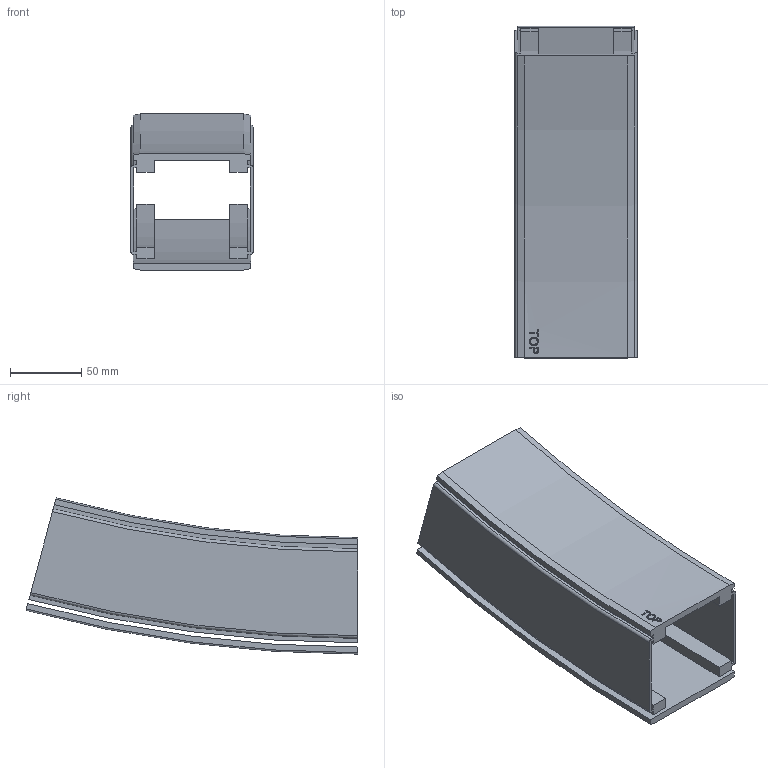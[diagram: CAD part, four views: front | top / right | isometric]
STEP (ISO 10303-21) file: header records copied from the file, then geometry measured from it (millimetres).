
FILE_DESCRIPTION(/* description */ ('VERTIKALKURVA S530 R860'),/* implementation_level */ '2;1');
FILE_NAME(/* name */ '530-5695+830-2000-UPP-01.stp',/* time_stamp */ '2022-09-21T07:16:29+02:00',/* author */ ('Mathias.Dore'),/* organization */ ('CARRYLINE'),/* preprocessor_version */ 'ST-DEVELOPER v19.2',/* originating_system */ 'Autodesk Inventor 2023',/* authorisation */ '');
FILE_SCHEMA (('AUTOMOTIVE_DESIGN { 1 0 10303 214 3 1 1 }'));
Length unit declared in the file: millimetre
Products named in the file (1): 530-5695+830-2000-UPP-01
Bounding box: 86 x 233.58 x 109.96 mm (x, y, z)
Volume: 334565.3 mm3; surface area: 165438.7 mm2
Topology: 2 solids, 2 shells, 87 faces, 234 edges, 156 vertices
Faces by surface type: plane 40, cylinder 25, bspline 14, cone 4, torus 4
Entity records: 7345 total; most frequent: CARTESIAN_POINT 5146, ORIENTED_EDGE 468, DIRECTION 408, EDGE_CURVE 234, VERTEX_POINT 156, AXIS2_PLACEMENT_3D 141, LINE 126, VECTOR 126
